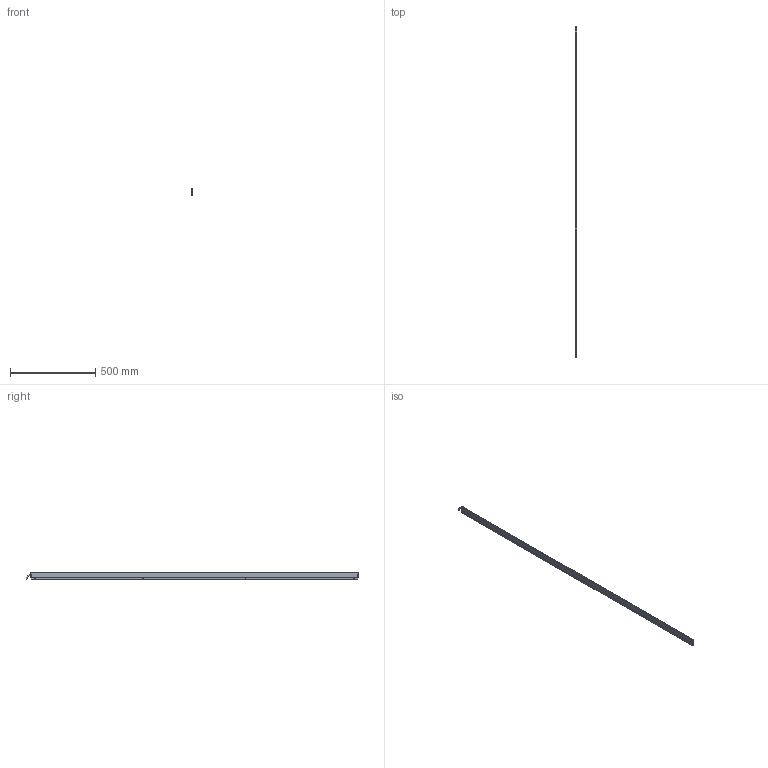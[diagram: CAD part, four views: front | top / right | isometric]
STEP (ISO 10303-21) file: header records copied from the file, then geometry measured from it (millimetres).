
FILE_DESCRIPTION (( 'STEP AP214' ), '1' );
FILE_NAME ('ILG-L-K1-1920mm.STEP', '2017-07-11T07:14:51', ( '' ), ( '' ), 'SwSTEP 2.0', 'SolidWorks 2016', '' );
FILE_SCHEMA (( 'AUTOMOTIVE_DESIGN' ));
Length unit declared in the file: millimetre
Products named in the file (1): ILG-L-K1-1920mm
Bounding box: 9 x 1948.25 x 40.71 mm (x, y, z)
Volume: 270959.3 mm3; surface area: 377392.9 mm2
Topology: 9 solids, 9 shells, 432 faces, 1114 edges, 702 vertices
Faces by surface type: plane 205, cylinder 153, cone 64, torus 10
Entity records: 18006 total; most frequent: CARTESIAN_POINT 2397, DIRECTION 2342, ORIENTED_EDGE 2212, EDGE_CURVE 1106, AXIS2_PLACEMENT_3D 855, VERTEX_POINT 702, LINE 632, VECTOR 632
